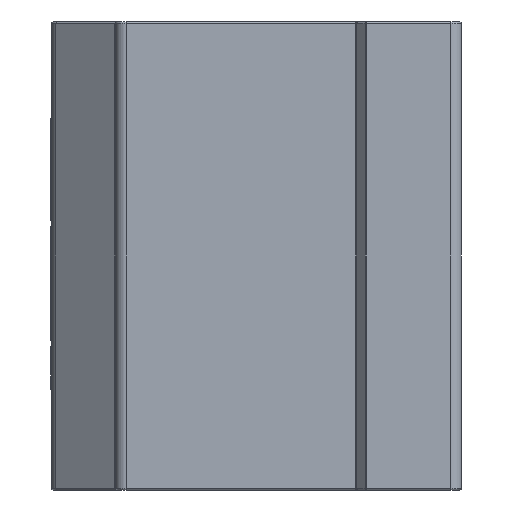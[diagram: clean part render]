
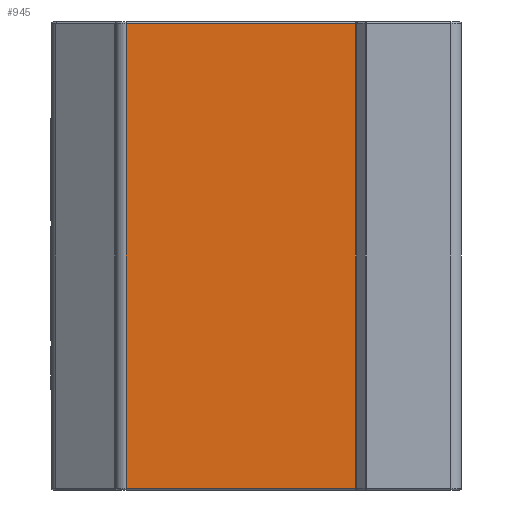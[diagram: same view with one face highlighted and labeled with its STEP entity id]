
A CAD part, left-side view. The second image highlights one B-rep face of the part: STEP entity #945.
In plain terms, the highlighted planar face has unit normal (-1, 0, 0).
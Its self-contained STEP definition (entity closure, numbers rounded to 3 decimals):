
#221 = CARTESIAN_POINT ( 'NONE',  ( -24., 11.8, 0.15 ) ) ;
#541 = CARTESIAN_POINT ( 'NONE',  ( -24., -9.8, 43.85 ) ) ;
#945 = ADVANCED_FACE ( 'NONE', ( #4018 ), #13575, .F. ) ;
#987 = VERTEX_POINT ( 'NONE', #221 ) ;
#1126 = DIRECTION ( 'NONE',  ( 0., -1., 0. ) ) ;
#1737 = CARTESIAN_POINT ( 'NONE',  ( -24., -9.733, 0.15 ) ) ;
#2077 = CARTESIAN_POINT ( 'NONE',  ( -24., -9.8, 44. ) ) ;
#2218 = LINE ( 'NONE', #11523, #5260 ) ;
#3085 = DIRECTION ( 'NONE',  ( 0., 0., 1. ) ) ;
#3500 = ORIENTED_EDGE ( 'NONE', *, *, #3629, .T. ) ;
#3629 = EDGE_CURVE ( 'NONE', #987, #8893, #2218, .T. ) ;
#3945 = LINE ( 'NONE', #541, #12789 ) ;
#4000 = DIRECTION ( 'NONE',  ( 0., 1., 0. ) ) ;
#4018 = FACE_OUTER_BOUND ( 'NONE', #7169, .T. ) ;
#4043 = DIRECTION ( 'NONE',  ( 0., 0., -1. ) ) ;
#4101 = LINE ( 'NONE', #11171, #12577 ) ;
#4353 = DIRECTION ( 'NONE',  ( 1., 0., 0. ) ) ;
#5260 = VECTOR ( 'NONE', #1126, 1000. ) ;
#5672 = LINE ( 'NONE', #8617, #11471 ) ;
#6372 = VERTEX_POINT ( 'NONE', #13508 ) ;
#6408 = ORIENTED_EDGE ( 'NONE', *, *, #8455, .T. ) ;
#7169 = EDGE_LOOP ( 'NONE', ( #13338, #7502, #3500, #6408 ) ) ;
#7502 = ORIENTED_EDGE ( 'NONE', *, *, #13758, .T. ) ;
#8455 = EDGE_CURVE ( 'NONE', #8893, #10261, #4101, .T. ) ;
#8617 = CARTESIAN_POINT ( 'NONE',  ( -24., 11.8, 44. ) ) ;
#8893 = VERTEX_POINT ( 'NONE', #1737 ) ;
#10261 = VERTEX_POINT ( 'NONE', #13008 ) ;
#11100 = AXIS2_PLACEMENT_3D ( 'NONE', #2077, #4353, #12418 ) ;
#11171 = CARTESIAN_POINT ( 'NONE',  ( -24., -9.733, 44. ) ) ;
#11471 = VECTOR ( 'NONE', #4043, 1000. ) ;
#11523 = CARTESIAN_POINT ( 'NONE',  ( -24., -9.8, 0.15 ) ) ;
#12418 = DIRECTION ( 'NONE',  ( 0., 0., -1. ) ) ;
#12470 = EDGE_CURVE ( 'NONE', #10261, #6372, #3945, .T. ) ;
#12577 = VECTOR ( 'NONE', #3085, 1000. ) ;
#12789 = VECTOR ( 'NONE', #4000, 1000. ) ;
#13008 = CARTESIAN_POINT ( 'NONE',  ( -24., -9.733, 43.85 ) ) ;
#13338 = ORIENTED_EDGE ( 'NONE', *, *, #12470, .T. ) ;
#13508 = CARTESIAN_POINT ( 'NONE',  ( -24., 11.8, 43.85 ) ) ;
#13575 = PLANE ( 'NONE',  #11100 ) ;
#13758 = EDGE_CURVE ( 'NONE', #6372, #987, #5672, .T. ) ;
